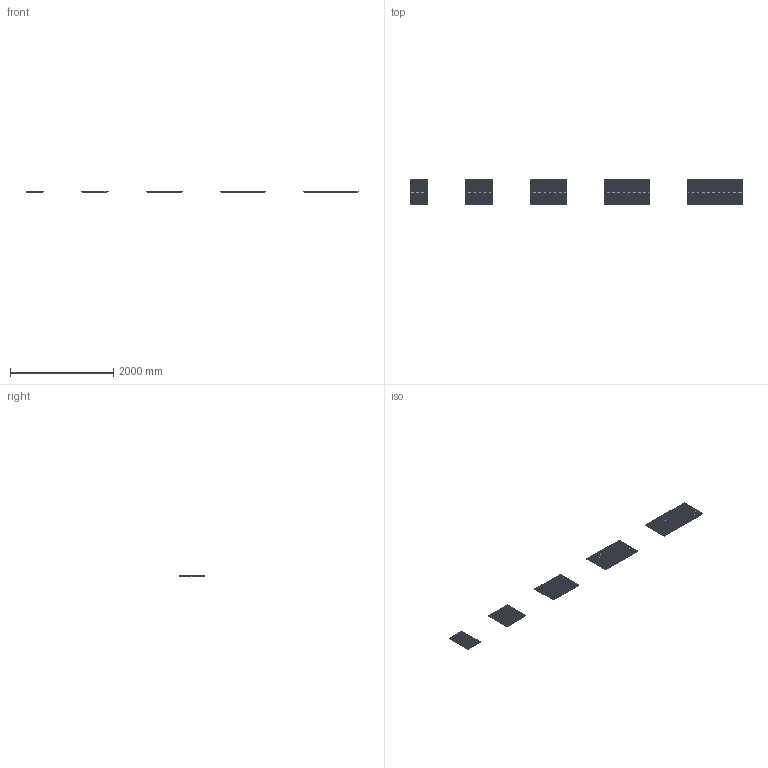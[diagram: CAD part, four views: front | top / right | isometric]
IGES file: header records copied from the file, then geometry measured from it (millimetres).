
Start section: Data from Parasolid IGES Translator 19.0.9, Copyright(c) 2006 Siemens PL M Software. All Rights Reserved.
Global section: file name: noorth-FJ-slats shelf.igs; native system: By Siemens PLM Incorporated; preprocessor: XPlus GENERIC/IGES 19.0.9; author: Noname; organization: Noname; date: 20200507.121259; units: metre
Bounding box: 6424.13 x 501.24 x 24.72 mm (x, y, z)
Volume: 21321177 mm3; surface area: 5478614.1 mm2
Topology: 144 solids, 144 shells, 884 faces, 1788 edges, 1192 vertices
Faces by surface type: plane 884
